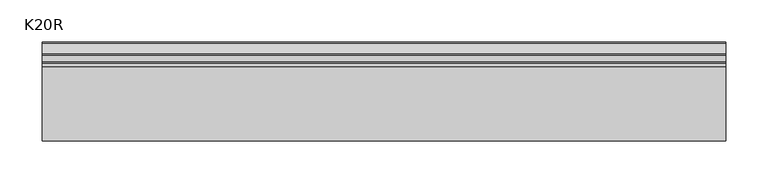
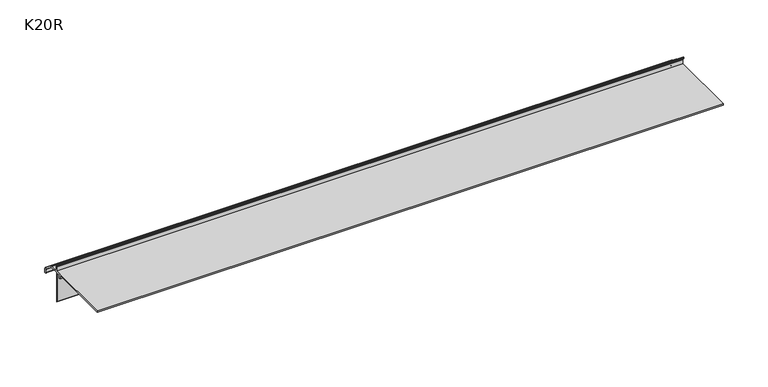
"""IFC4 building model written with IfcOpenShell, lengths in millimetres: proxy geometry, K20R Profil okapowy prosty z rynną : K20R."""

from ifc_helpers import new_model, si_unit, frame, origin, place, context, project, spatial, polyline, circle_curve, source, transform, mapped, element, save
from ifc_brep_helpers import plane_surface, cylinder_surface, revolved_surface, advanced_brep


def k20r_2c831959(model_context):
    return source(origin(), model_context, "Body", "AdvancedBrep", [
        advanced_brep(
        [(0.0, 4.0000007, -8.2869169), (0.0, 5.930201, -10.2872957), (0.0, 13.7033457, -10.5587402), (0.0, 15.4054451, -11.1610531), (0.0, 27.605445, -20.3544126), (0.0, 28.8, -22.750319), (0.0, 28.8, -27.0198916), (0.0, 27.1, -27.0198916), (0.0, 27.1, -23.0993261), (0.0, 26.3036301, -21.5020551), (0.0, 14.4327214, -12.5566836), (0.0, 13.5823481, -12.2555508), (0.0, 3.9703269, -11.9198912), (0.0, 2.8999983, -11.9198912), (0.0, 2.8999983, -51.9948908), (0.0, 1.3999986, -50.494891), (0.0, 1.3999986, -11.9198912), (0.0, -3.6000013, -11.9198912), (0.0, -3.6000013, -16.6198916), (0.0, -4.7999993, -16.6198916), (0.0, -4.7999993, -11.9198912), (0.0, -87.2999988, -11.9198912), (0.0, -87.2999988, -9.6198913), (0.0, 2.3999996, -9.6198913), (0.0, 2.3999996, -4.1001397), (0.0, 0.0, -1.6007811), (0.0, 0.0, 0.0), (0.0, 4.0, -4.0987803), (804.6747971, 4.0000007, -8.2869169), (804.6747971, 4.0000007, -4.0987801), (804.6747971, 0.0, 0.0), (804.6747971, 0.0, -1.6007811), (804.6747971, 2.3999996, -4.1001397), (804.6747971, 2.3999996, -9.6198913), (804.6747971, -87.2999988, -9.6198913), (804.6747971, -87.2999988, -11.9198912), (804.6747971, -4.7999993, -11.9198912), (804.6747971, -4.7999993, -16.6198916), (804.6747971, -3.6000013, -16.6198916), (804.6747971, -3.6000013, -11.9198912), (804.6747971, 1.3999986, -11.9198912), (804.6747971, 1.3999986, -50.494891), (804.6747971, 2.8999983, -51.9948908), (804.6747971, 2.8999983, -11.9198912), (804.6747971, 3.9703269, -11.9198912), (804.6747971, 13.5823481, -12.255551), (804.6747971, 14.4327213, -12.5566837), (804.6747971, 26.3036302, -21.502055), (804.6747971, 27.1, -23.0993261), (804.6747971, 27.1, -27.0198916), (804.6747971, 28.8, -27.0198916), (804.6747971, 28.8, -22.750319), (804.6747971, 27.6054451, -20.3544125), (804.6747971, 15.4054451, -11.1610531), (804.6747971, 13.7033457, -10.5587402), (804.6747971, 5.930201, -10.2872957)],
        [
            (0, 1, circle_curve(frame((0.0, 6.0, -8.288514), z_axis=(1.0, 0.0, 0.0), x_axis=(0.0, -1.0, 0.0)), 2.0)),
            (1, 2),
            (2, 3, circle_curve(frame((0.0, 13.6, -13.5569596), z_axis=(-1.0, 0.0, 0.0), x_axis=(0.0, -1.0, 0.0)), 3.0)),
            (3, 4),
            (4, 5, circle_curve(frame((0.0, 25.8, -22.750319), z_axis=(-1.0, 0.0, 0.0), x_axis=(0.0, -1.0, 0.0)), 3.0)),
            (5, 6),
            (6, 7, circle_curve(frame((0.0, 27.95, -27.0198916), z_axis=(-1.0, 0.0, 0.0), x_axis=(0.0, -1.0, 0.0)), 0.85)),
            (7, 8),
            (8, 9, circle_curve(frame((0.0, 25.1, -23.0993261), z_axis=(1.0, 0.0, 0.0), x_axis=(0.0, -1.0, 0.0)), 2.0)),
            (9, 10),
            (10, 11, circle_curve(frame((0.0, 13.5299988, -13.754637), z_axis=(1.0, 0.0, 0.0), x_axis=(0.0, -1.0, 0.0)), 1.5)),
            (11, 12),
            (12, 13),
            (13, 14),
            (14, 15),
            (15, 16),
            (16, 17),
            (17, 18),
            (18, 19),
            (19, 20),
            (20, 21),
            (21, 22),
            (22, 23),
            (23, 24),
            (24, 25, circle_curve(frame((0.0, -0.1, -4.0987803), z_axis=(1.0, 0.0, 0.0), x_axis=(0.0, -1.0, 0.0)), 2.5)),
            (25, 26),
            (26, 27, circle_curve(frame((0.0, -0.1, -4.0987803), z_axis=(-1.0, 0.0, 0.0), x_axis=(0.0, -1.0, 0.0)), 4.1)),
            (27, 0),
            (28, 29),
            (29, 30, circle_curve(frame((804.6747971, -0.1, -4.0987803), z_axis=(1.0, 0.0, 0.0), x_axis=(0.0, -1.0, 0.0)), 4.1)),
            (30, 31),
            (31, 32, circle_curve(frame((804.6747971, -0.1, -4.0987803), z_axis=(-1.0, 0.0, 0.0), x_axis=(0.0, -1.0, 0.0)), 2.5)),
            (32, 33),
            (33, 34),
            (34, 35),
            (35, 36),
            (36, 37),
            (37, 38),
            (38, 39),
            (39, 40),
            (40, 41),
            (41, 42),
            (42, 43),
            (43, 44),
            (44, 45),
            (45, 46, circle_curve(frame((804.6747971, 13.5299988, -13.754637), z_axis=(-1.0, 0.0, 0.0), x_axis=(0.0, -1.0, 0.0)), 1.5)),
            (46, 47),
            (47, 48, circle_curve(frame((804.6747971, 25.1, -23.0993261), z_axis=(-1.0, 0.0, 0.0), x_axis=(0.0, -1.0, 0.0)), 2.0)),
            (48, 49),
            (49, 50, circle_curve(frame((804.6747971, 27.95, -27.0198916), z_axis=(1.0, 0.0, 0.0), x_axis=(0.0, -1.0, 0.0)), 0.85)),
            (50, 51),
            (51, 52, circle_curve(frame((804.6747971, 25.8, -22.750319), z_axis=(1.0, 0.0, 0.0), x_axis=(0.0, -1.0, 0.0)), 3.0)),
            (52, 53),
            (53, 54, circle_curve(frame((804.6747971, 13.6, -13.5569596), z_axis=(1.0, 0.0, 0.0), x_axis=(0.0, -1.0, 0.0)), 3.0)),
            (54, 55),
            (55, 28, circle_curve(frame((804.6747971, 6.0, -8.288514), z_axis=(-1.0, 0.0, 0.0), x_axis=(0.0, -1.0, 0.0)), 2.0)),
            (27, 29),
            (28, 0),
            (26, 30),
            (25, 31),
            (24, 32),
            (23, 33),
            (22, 34),
            (21, 35),
            (20, 36),
            (19, 37),
            (18, 38),
            (17, 39),
            (16, 40),
            (15, 41),
            (14, 42),
            (13, 43),
            (12, 44),
            (11, 45),
            (10, 46),
            (9, 47),
            (8, 48),
            (7, 49),
            (6, 50),
            (5, 51),
            (4, 52),
            (3, 53),
            (2, 54),
            (1, 55),
        ],
        [
            plane_surface(frame((0.0, 0.0, 0.0), z_axis=(-1.0, 0.0, 0.0), x_axis=(0.0, 0.0, 1.0))),
            plane_surface(frame((804.6747971, 0.0, 0.0), z_axis=(1.0, 0.0, 0.0), x_axis=(0.0, 0.0, 1.0))),
            plane_surface(frame((0.0, 4.0000007, -8.2869169), z_axis=(0.0, 1.0, 0.0), x_axis=(1.0, 0.0, 0.0))),
            cylinder_surface(frame((0.0, -0.1, -4.0987803), z_axis=(-1.0, 0.0, 0.0), x_axis=(0.0, -1.0, 0.0)), 4.1),
            plane_surface(frame((0.0, 0.0, 0.0), z_axis=(0.0, -1.0, 0.0), x_axis=(1.0, 0.0, 0.0))),
            revolved_surface(polyline([(804.6747971, -2.6, -4.0987803), (0.0, -2.6, -4.0987803)]), (0.0, -0.1, -4.0987803), (1.0, 0.0, 0.0)),
            plane_surface(frame((0.0, 2.3999996, -4.1001397), z_axis=(0.0, -1.0, 0.0), x_axis=(1.0, 0.0, 0.0))),
            plane_surface(frame((0.0, 2.3999996, -9.6198913), z_axis=(0.0, 0.0, 1.0), x_axis=(1.0, 0.0, 0.0))),
            plane_surface(frame((0.0, -87.2999988, -9.6198913), z_axis=(0.0, -1.0, 0.0), x_axis=(1.0, 0.0, 0.0))),
            plane_surface(frame((0.0, -87.2999988, -11.9198912), z_axis=(0.0, 0.0, -1.0), x_axis=(1.0, 0.0, 0.0))),
            plane_surface(frame((0.0, -4.7999993, -11.9198912), z_axis=(0.0, -1.0, 0.0), x_axis=(1.0, 0.0, 0.0))),
            plane_surface(frame((0.0, -4.7999993, -16.6198916), z_axis=(0.0, 0.0, -1.0), x_axis=(1.0, 0.0, 0.0))),
            plane_surface(frame((0.0, -3.6000013, -16.6198916), z_axis=(0.0, 1.0, 0.0), x_axis=(1.0, 0.0, 0.0))),
            plane_surface(frame((0.0, -3.6000013, -11.9198912), z_axis=(0.0, 0.0, -1.0), x_axis=(1.0, 0.0, 0.0))),
            plane_surface(frame((0.0, 1.3999986, -11.9198912), z_axis=(0.0, -1.0, 0.0), x_axis=(1.0, 0.0, 0.0))),
            plane_surface(frame((0.0, 1.3999986, -50.494891), z_axis=(0.0, -0.7071067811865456, -0.7071067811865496), x_axis=(1.0, 0.0, 0.0))),
            plane_surface(frame((0.0, 2.8999983, -51.9948908), z_axis=(0.0, 1.0, 0.0), x_axis=(1.0, 0.0, 0.0))),
            plane_surface(frame((0.0, 2.8999983, -11.9198912), z_axis=(0.0, 0.0, -1.0), x_axis=(1.0, 0.0, 0.0))),
            plane_surface(frame((0.0, 3.9703269, -11.9198912), z_axis=(0.0, -0.034899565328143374, -0.9993908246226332), x_axis=(1.0, 0.0, 0.0))),
            revolved_surface(polyline([(804.6747971, 12.0299988, -13.754637), (0.0, 12.0299988, -13.754637)]), (0.0, 13.5299988, -13.754637), (1.0, 0.0, 0.0)),
            plane_surface(frame((0.0, 14.4327214, -12.5566836), z_axis=(0.0, -0.6018150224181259, -0.7986355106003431), x_axis=(1.0, 0.0, 0.0))),
            revolved_surface(polyline([(804.6747971, 23.1, -23.0993261), (0.0, 23.1, -23.0993261)]), (0.0, 25.1, -23.0993261), (1.0, 0.0, 0.0)),
            plane_surface(frame((0.0, 27.1, -23.0993261), z_axis=(0.0, -1.0, 0.0), x_axis=(1.0, 0.0, 0.0))),
            cylinder_surface(frame((0.0, 27.95, -27.0198916), z_axis=(-1.0, 0.0, 0.0), x_axis=(0.0, -1.0, 0.0)), 0.85),
            plane_surface(frame((0.0, 28.8, -27.0198916), z_axis=(0.0, 1.0, 0.0), x_axis=(1.0, 0.0, 0.0))),
            cylinder_surface(frame((0.0, 25.8, -22.750319), z_axis=(-1.0, 0.0, 0.0), x_axis=(0.0, -1.0, 0.0)), 3.0),
            plane_surface(frame((0.0, 27.605445, -20.3544126), z_axis=(0.0, 0.6018150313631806, 0.7986355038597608), x_axis=(1.0, 0.0, 0.0))),
            cylinder_surface(frame((0.0, 13.6, -13.5569596), z_axis=(-1.0, 0.0, 0.0), x_axis=(0.0, -1.0, 0.0)), 3.0),
            plane_surface(frame((0.0, 13.7033457, -10.5587402), z_axis=(0.0, 0.03489952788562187, 0.9993908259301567), x_axis=(1.0, 0.0, 0.0))),
            revolved_surface(polyline([(804.6747971, 4.0, -8.288514), (0.0, 4.0, -8.288514)]), (0.0, 6.0, -8.288514), (1.0, 0.0, 0.0)),
        ],
        [
            (0, [[1, 2, 3, 4, 5, 6, 7, 8, 9, 10, 11, 12, 13, 14, 15, 16, 17, 18, 19, 20, 21, 22, 23, 24, 25, 26, 27, 28]]),
            (1, [[29, 30, 31, 32, 33, 34, 35, 36, 37, 38, 39, 40, 41, 42, 43, 44, 45, 46, 47, 48, 49, 50, 51, 52, 53, 54, 55, 56]]),
            (2, [[57, -29, 58, -28]]),
            (3, [[59, -30, -57, -27]]),
            (4, [[60, -31, -59, -26]]),
            (5, [[61, -32, -60, -25]]),
            (6, [[62, -33, -61, -24]]),
            (7, [[63, -34, -62, -23]]),
            (8, [[64, -35, -63, -22]]),
            (9, [[65, -36, -64, -21]]),
            (10, [[66, -37, -65, -20]]),
            (11, [[67, -38, -66, -19]]),
            (12, [[68, -39, -67, -18]]),
            (13, [[69, -40, -68, -17]]),
            (14, [[70, -41, -69, -16]]),
            (15, [[71, -42, -70, -15]]),
            (16, [[72, -43, -71, -14]]),
            (17, [[73, -44, -72, -13]]),
            (18, [[74, -45, -73, -12]]),
            (19, [[75, -46, -74, -11]]),
            (20, [[76, -47, -75, -10]]),
            (21, [[77, -48, -76, -9]]),
            (22, [[78, -49, -77, -8]]),
            (23, [[79, -50, -78, -7]]),
            (24, [[80, -51, -79, -6]]),
            (25, [[81, -52, -80, -5]]),
            (26, [[82, -53, -81, -4]]),
            (27, [[83, -54, -82, -3]]),
            (28, [[84, -55, -83, -2]]),
            (29, [[-58, -56, -84, -1]]),
        ],
    ),
    ])


if __name__ == "__main__":
    model = new_model("IFC4")
    model_context = context("Model", 3, world=origin())
    ifc_project = project(units=[si_unit("LENGTHUNIT", "METRE", prefix="MILLI")], contexts=[model_context])
    site = spatial("IfcSite", under=ifc_project)
    building = spatial("IfcBuilding", under=site)
    placement = place(None, origin())
    k20r_shape = k20r_2c831959(model_context)
    element("IfcBuildingElementProxy", 1, Name="K20R Profil okapowy prosty z rynną : K20R", ObjectType="K20R Profil okapowy prosty z rynną : K20R", at=placement, inside=building, context=model_context, shape_type="MappedRepresentation", body=[
        mapped(k20r_shape, transform((0.0, 0.0, 0.0), x_axis=(1.0, 0.0, 0.0), y_axis=(0.0, 1.0, 0.0), z_axis=(0.0, 0.0, 1.0))),
    ])
    save(model, "model.ifc")
